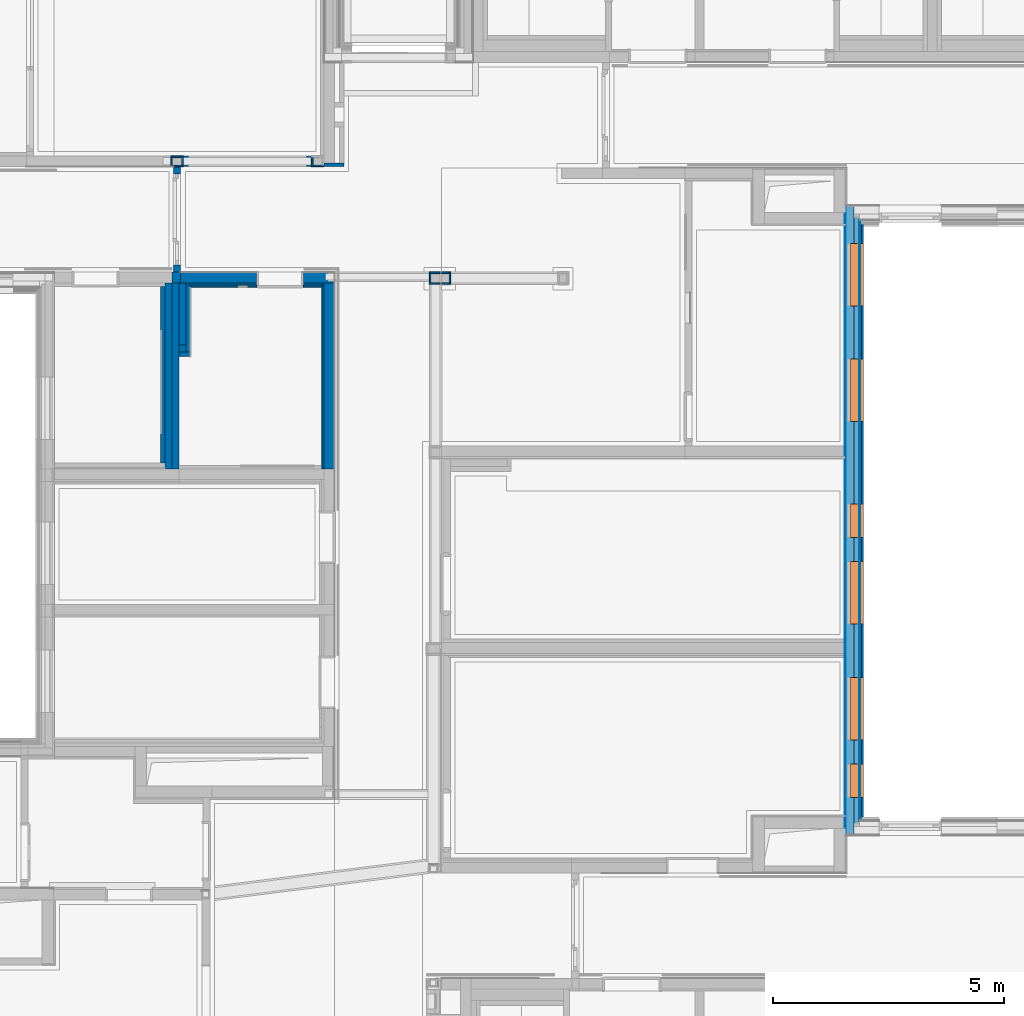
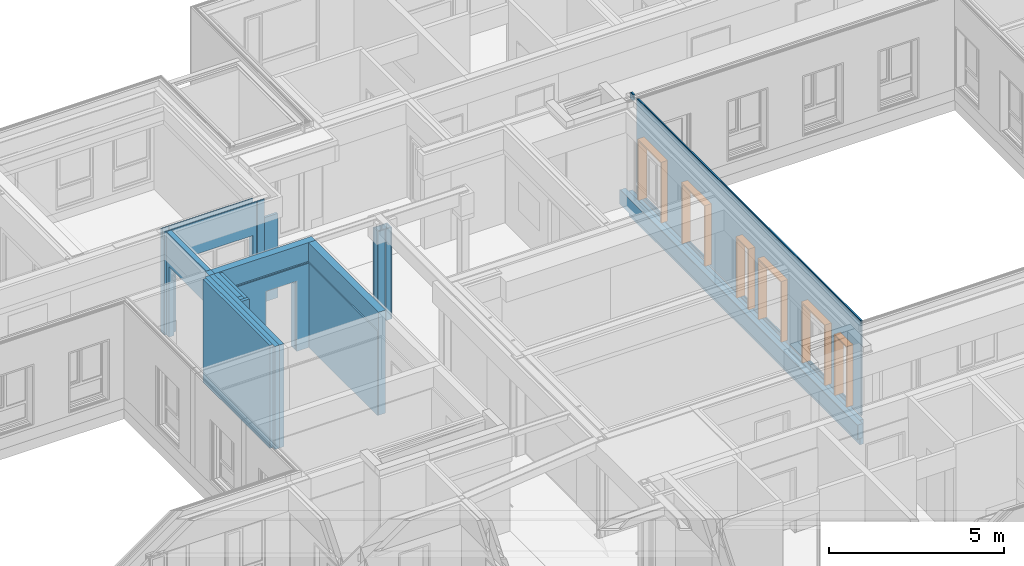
# One storey, part 49 of 207: 34 walls, 6 proxies, 17 openings.
"""IFC4 building model written with IfcOpenShell, lengths in metres."""

from ifc_helpers import new_model, entity, si_unit, converted_unit, derived_unit, frame, frame_2d, origin, origin_with_axes, place, context, subcontext, project, spatial, polyline, rectangle, outline, extrude, clip, bounded_halfspace, faceted_brep, material, element, fill, save


model = new_model("IFC4")

# Units and contexts
model_context = context("Model", 3, precision=1e-05, world=origin())
body_context = subcontext(model_context, "Body", "Model", "MODEL_VIEW")
ifc_project = project(units=[si_unit("LENGTHUNIT", "METRE"), si_unit("AREAUNIT", "SQUARE_METRE"), si_unit("VOLUMEUNIT", "CUBIC_METRE"), si_unit("MASSUNIT", "GRAM", prefix="KILO"), converted_unit("PLANEANGLEUNIT", "DEGREE", entity("IfcPlaneAngleMeasure", 0.0174532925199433), si_unit("PLANEANGLEUNIT", "RADIAN"), dimensions=[0, 0, 0, 0, 0, 0, 0]), derived_unit("THERMALTRANSMITTANCEUNIT", [(si_unit("POWERUNIT", "WATT"), 1), (si_unit("THERMODYNAMICTEMPERATUREUNIT", "KELVIN"), -1), (si_unit("LENGTHUNIT", "METRE"), -2)]), derived_unit("VOLUMETRICFLOWRATEUNIT", [(si_unit("LENGTHUNIT", "METRE"), 3), (converted_unit("TIMEUNIT", "hour", entity("IfcTimeMeasure", 3600.0), si_unit("TIMEUNIT", "SECOND"), dimensions=[0, 0, 1, 0, 0, 0, 0]), -1), (si_unit("LENGTHUNIT", "METRE"), -1)])], contexts=[model_context])

# Site, building, storey
site_placement = place(None, origin())
site = spatial("IfcSite", under=ifc_project, at=site_placement, Name="Psychiatrie Neubau Wunstorf", CompositionType="ELEMENT")
building_placement = place(site_placement, origin())
building = spatial("IfcBuilding", under=site, at=building_placement, Name="Neubau H2 Stationsgebäude", CompositionType="ELEMENT")
storey_placement = place(building_placement, frame((0.0, 0.0, -0.2)))
storey = spatial("IfcBuildingStorey", under=building, at=storey_placement, Name="H2 Ebene 0", CompositionType="ELEMENT", Elevation=-0.2)

# Wall, openings
ifc_material_1 = material(Name="WA-TL")
wall_1_placement = place(storey_placement, frame((79.475, 22.0, 0.5), z_axis=(0.0, 0.0, 1.0), x_axis=(0.0, -1.0, 0.0)))
wall_1 = element("IfcWall", 1, at=wall_1_placement, inside=storey, material=ifc_material_1, context=body_context, shape_type="Clipping", body=[
    clip(extrude(rectangle(XDim=12.866, YDim=0.024, at=frame_2d((6.433, 0.012), x_axis=(1.0, 0.0))), frame((0.36, 0.0, 0.0), z_axis=(0.0, 0.0, 1.0), x_axis=(1.0, 0.0, 0.0)), (0.0, 0.0, 1.0), 3.3), bounded_halfspace(frame((0.08, 0.012, 3.1), z_axis=(1.4210854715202e-15, 9.473903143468e-15, 1.0), x_axis=(0.0, -1.0, 1.8947806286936e-14)), True, origin_with_axes(), polyline([(0.0, 0.024), (0.0, 0.0), (0.16, 0.0), (0.16, 0.024), (0.0, 0.024)]))),
    clip(extrude(rectangle(XDim=0.16, YDim=0.024, at=frame_2d((0.08, 0.012), x_axis=(1.0, 0.0))), origin_with_axes(), (0.0, 0.0, 1.0), 3.3), bounded_halfspace(frame((0.08, 0.012, 3.1), z_axis=(1.4210854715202e-15, 9.473903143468e-15, 1.0), x_axis=(0.0, -1.0, 1.8947806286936e-14)), True, origin_with_axes(), polyline([(0.0, 0.024), (0.0, 0.0), (0.16, 0.0), (0.16, 0.024), (0.0, 0.024)]))),
])
opening_1_placement = place(wall_1_placement, frame((12.7649999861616, 0.024, 0.1), z_axis=(0.0, -1.0, 0.0), x_axis=(0.0, 0.0, 1.0)))
element("IfcOpeningElement", 2, at=opening_1_placement, cuts=wall_1, Name="Fensteröffnung", ObjectType="Opening", context=body_context, shape_type="SweptSolid", body=[
    extrude(outline(polyline([(2.12, 0.725), (2.12, 0.0), (0.0, 0.0), (0.0, 0.725), (2.12, 0.725)])), origin_with_axes(), (0.0, 0.0, 1.0), 0.024),
])
opening_2_placement = place(wall_1_placement, frame((11.5165865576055, 0.024, 0.1), z_axis=(0.0, -1.0, 0.0), x_axis=(0.0, 0.0, 1.0)))
element("IfcOpeningElement", 3, at=opening_2_placement, cuts=wall_1, Name="Fensteröffnung", ObjectType="Opening", context=body_context, shape_type="SweptSolid", body=[
    extrude(outline(polyline([(2.12, 1.35), (2.12, 0.0), (0.0, 0.0), (0.0, 1.35), (2.12, 1.35)])), origin_with_axes(), (0.0, 0.0, 1.0), 0.024),
])
opening_3_placement = place(wall_1_placement, frame((9.01664410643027, 0.024, 0.1), z_axis=(0.0, -1.0, 0.0), x_axis=(0.0, 0.0, 1.0)))
element("IfcOpeningElement", 4, at=opening_3_placement, cuts=wall_1, Name="Fensteröffnung", ObjectType="Opening", context=body_context, shape_type="SweptSolid", body=[
    extrude(outline(polyline([(2.12, 1.35), (2.12, 0.0), (0.0, 0.0), (0.0, 1.35), (2.12, 1.35)])), origin_with_axes(), (0.0, 0.0, 1.0), 0.024),
])
opening_4_placement = place(wall_1_placement, frame((4.64200463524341, 0.0240000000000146, 0.1), z_axis=(0.0, -1.0, 0.0), x_axis=(0.0, 0.0, 1.0)))
element("IfcOpeningElement", 5, at=opening_4_placement, cuts=wall_1, Name="Fensteröffnung", ObjectType="Opening", context=body_context, shape_type="SweptSolid", body=[
    extrude(outline(polyline([(2.12, 1.35), (2.12, 0.0), (0.0, 0.0), (0.0, 1.35), (2.12, 1.35)])), origin_with_axes(), (0.0, 0.0, 1.0), 0.024),
])
opening_5_placement = place(wall_1_placement, frame((2.14244477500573, 0.024, 0.1), z_axis=(0.0, -1.0, 0.0), x_axis=(0.0, 0.0, 1.0)))
element("IfcOpeningElement", 6, at=opening_5_placement, cuts=wall_1, Name="Fensteröffnung", ObjectType="Opening", context=body_context, shape_type="SweptSolid", body=[
    extrude(outline(polyline([(2.12, 1.35), (2.12, 0.0), (0.0, 0.0), (0.0, 1.35), (2.12, 1.35)])), origin_with_axes(), (0.0, 0.0, 1.0), 0.024),
])
opening_6_placement = place(wall_1_placement, frame((7.14238722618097, 0.024, 0.1), z_axis=(0.0, -1.0, 0.0), x_axis=(0.0, 0.0, 1.0)))
element("IfcOpeningElement", 7, at=opening_6_placement, cuts=wall_1, Name="Fensteröffnung", ObjectType="Opening", context=body_context, shape_type="SweptSolid", body=[
    extrude(outline(polyline([(2.12, 0.725), (2.12, 0.0), (0.0, 0.0), (0.0, 0.725), (2.12, 0.725)])), origin_with_axes(), (0.0, 0.0, 1.0), 0.024),
])

# Wall, openings, proxies
ifc_material_2 = material(Name="WA-HS")
wall_2_placement = place(storey_placement, frame((79.499, 22.0, 0.5), z_axis=(0.0, 0.0, 1.0), x_axis=(0.0, -1.0, 0.0)))
wall_2 = element("IfcWall", 8, at=wall_2_placement, inside=storey, material=ifc_material_2, context=body_context, shape_type="Clipping", body=[
    clip(extrude(rectangle(XDim=12.8, YDim=0.042, at=frame_2d((6.4, 0.021), x_axis=(1.0, 0.0))), frame((0.384, 0.0, 0.0), z_axis=(0.0, 0.0, 1.0), x_axis=(1.0, 0.0, 0.0)), (0.0, 0.0, 1.0), 3.3), bounded_halfspace(frame((0.08, 0.021, 3.1), z_axis=(1.4210854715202e-15, 5.41365893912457e-15, 1.0), x_axis=(0.0, -1.0, 1.08273178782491e-14)), True, origin_with_axes(), polyline([(0.0, 0.042), (0.0, 0.0), (0.16, 0.0), (0.16, 0.042), (0.0, 0.042)]))),
    clip(extrude(rectangle(XDim=0.16, YDim=0.042, at=frame_2d((0.08, 0.021), x_axis=(1.0, 0.0))), origin_with_axes(), (0.0, 0.0, 1.0), 3.3), bounded_halfspace(frame((0.08, 0.021, 3.1), z_axis=(1.4210854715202e-15, 5.41365893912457e-15, 1.0), x_axis=(0.0, -1.0, 1.08273178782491e-14)), True, origin_with_axes(), polyline([(0.0, 0.042), (0.0, 0.0), (0.16, 0.0), (0.16, 0.042), (0.0, 0.042)]))),
])
opening_7_placement = place(wall_2_placement, frame((12.7649999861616, 0.042, 0.1), z_axis=(0.0, -1.0, 0.0), x_axis=(0.0, 0.0, 1.0)))
opening_7 = element("IfcOpeningElement", 9, at=opening_7_placement, cuts=wall_2, Name="Fensteröffnung", ObjectType="Opening", context=body_context, shape_type="SweptSolid", body=[
    extrude(outline(polyline([(2.12, 0.725), (2.12, 0.0), (0.0, 0.0), (0.0, 0.725), (2.12, 0.725)])), origin_with_axes(), (0.0, 0.0, 1.0), 0.042),
])
opening_8_placement = place(wall_2_placement, frame((11.5165865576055, 0.042, 0.1), z_axis=(0.0, -1.0, 0.0), x_axis=(0.0, 0.0, 1.0)))
opening_8 = element("IfcOpeningElement", 10, at=opening_8_placement, cuts=wall_2, Name="Fensteröffnung", ObjectType="Opening", context=body_context, shape_type="SweptSolid", body=[
    extrude(outline(polyline([(2.12, 1.35), (2.12, 0.0), (0.0, 0.0), (0.0, 1.35), (2.12, 1.35)])), origin_with_axes(), (0.0, 0.0, 1.0), 0.042),
])
opening_9_placement = place(wall_2_placement, frame((9.01664410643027, 0.042, 0.1), z_axis=(0.0, -1.0, 0.0), x_axis=(0.0, 0.0, 1.0)))
opening_9 = element("IfcOpeningElement", 11, at=opening_9_placement, cuts=wall_2, Name="Fensteröffnung", ObjectType="Opening", context=body_context, shape_type="SweptSolid", body=[
    extrude(outline(polyline([(2.12, 1.35), (2.12, 0.0), (0.0, 0.0), (0.0, 1.35), (2.12, 1.35)])), origin_with_axes(), (0.0, 0.0, 1.0), 0.042),
])
opening_10_placement = place(wall_2_placement, frame((4.64200463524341, 0.0420000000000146, 0.1), z_axis=(0.0, -1.0, 0.0), x_axis=(0.0, 0.0, 1.0)))
opening_10 = element("IfcOpeningElement", 12, at=opening_10_placement, cuts=wall_2, Name="Fensteröffnung", ObjectType="Opening", context=body_context, shape_type="SweptSolid", body=[
    extrude(outline(polyline([(2.12, 1.35), (2.12, 0.0), (0.0, 0.0), (0.0, 1.35), (2.12, 1.35)])), origin_with_axes(), (0.0, 0.0, 1.0), 0.042),
])
opening_11_placement = place(wall_2_placement, frame((2.14244477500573, 0.042, 0.1), z_axis=(0.0, -1.0, 0.0), x_axis=(0.0, 0.0, 1.0)))
opening_11 = element("IfcOpeningElement", 13, at=opening_11_placement, cuts=wall_2, Name="Fensteröffnung", ObjectType="Opening", context=body_context, shape_type="SweptSolid", body=[
    extrude(outline(polyline([(2.12, 1.35), (2.12, 0.0), (0.0, 0.0), (0.0, 1.35), (2.12, 1.35)])), origin_with_axes(), (0.0, 0.0, 1.0), 0.042),
])
opening_12_placement = place(wall_2_placement, frame((7.14238722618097, 0.042, 0.1), z_axis=(0.0, -1.0, 0.0), x_axis=(0.0, 0.0, 1.0)))
opening_12 = element("IfcOpeningElement", 14, at=opening_12_placement, cuts=wall_2, Name="Fensteröffnung", ObjectType="Opening", context=body_context, shape_type="SweptSolid", body=[
    extrude(outline(polyline([(2.12, 0.725), (2.12, 0.0), (0.0, 0.0), (0.0, 0.725), (2.12, 0.725)])), origin_with_axes(), (0.0, 0.0, 1.0), 0.042),
])
ifc_material_3 = material(Name="WA-HS")
proxy_1_placement = place(opening_7_placement, frame((0.0, 0.0, 0.275)))
proxy_1 = element("IfcBuildingElementProxy", 15, at=proxy_1_placement, inside=storey, material=ifc_material_3, context=body_context, shape_type="Brep", body=[
    faceted_brep([(0.0, 0.725, 0.0), (0.0, 0.725, -0.275), (2.12, 0.725, -0.275), (2.12, 0.725, 0.0), (2.12, 0.0, -0.275), (2.12, 0.0, 0.0), (0.0, 0.675, -0.275), (0.0, 0.675, 0.0), (0.0, 0.0, 0.0), (0.0, 0.05, 0.0), (2.07, 0.05, 0.0), (2.07, 0.675, 0.0), (2.07, 0.675, -0.275), (2.07, 0.05, -0.275), (0.0, 0.05, -0.275), (0.0, 0.0, -0.275)], [[[0, 1, 2, 3]], [[2, 4, 5, 3]], [[6, 1, 0, 7]], [[7, 0, 3, 5, 8, 9, 10, 11]], [[1, 6, 12, 13, 14, 15, 4, 2]], [[6, 7, 11, 12]], [[15, 8, 5, 4]], [[15, 14, 9, 8]], [[9, 14, 13, 10]], [[10, 13, 12, 11]]], orient=[[False], [False], [False], [False], [False], [False], [False], [False], [False], [False]]),
])
fill(opening_7, proxy_1)
ifc_material_4 = material(Name="WA-HS")
proxy_2_placement = place(opening_8_placement, frame((0.0, 0.0, 0.275)))
proxy_2 = element("IfcBuildingElementProxy", 16, at=proxy_2_placement, inside=storey, material=ifc_material_4, context=body_context, shape_type="Brep", body=[
    faceted_brep([(0.0, 0.0, -0.275), (0.0, 0.0, 0.0), (2.12, 0.0, 0.0), (2.12, 0.0, -0.275), (0.0, 0.05, 0.0), (0.0, 0.05, -0.275), (2.07, 0.05, -0.275), (2.07, 0.05, 0.0), (2.12, 1.35, 0.0), (2.12, 1.35, -0.275), (0.0, 1.35, -0.275), (0.0, 1.3, -0.275), (2.07, 1.3, -0.275), (2.07, 1.3, 0.0), (0.0, 1.3, 0.0), (0.0, 1.35, 0.0)], [[[0, 1, 2, 3]], [[4, 5, 6, 7]], [[0, 5, 4, 1]], [[3, 2, 8, 9]], [[6, 5, 0, 3, 9, 10, 11, 12]], [[13, 14, 15, 8, 2, 1, 4, 7]], [[7, 6, 12, 13]], [[11, 14, 13, 12]], [[15, 10, 9, 8]], [[11, 10, 15, 14]]], orient=[[False], [False], [False], [False], [False], [False], [False], [False], [False], [False]]),
])
fill(opening_8, proxy_2)
ifc_material_5 = material(Name="WA-HS")
proxy_3_placement = place(opening_9_placement, frame((0.0, 0.0, 0.275)))
proxy_3 = element("IfcBuildingElementProxy", 17, at=proxy_3_placement, inside=storey, material=ifc_material_5, context=body_context, shape_type="Brep", body=[
    faceted_brep([(0.0, 1.35, 0.0), (0.0, 1.35, -0.275), (2.12, 1.35, -0.275), (2.12, 1.35, 0.0), (2.12, 0.0, -0.275), (2.12, 0.0, 0.0), (0.0, 1.3, -0.275), (0.0, 1.3, 0.0), (0.0, 0.0, 0.0), (0.0, 0.05, 0.0), (2.07, 0.05, 0.0), (2.07, 1.3, 0.0), (2.07, 1.3, -0.275), (2.07, 0.05, -0.275), (0.0, 0.05, -0.275), (0.0, 0.0, -0.275)], [[[0, 1, 2, 3]], [[2, 4, 5, 3]], [[6, 1, 0, 7]], [[7, 0, 3, 5, 8, 9, 10, 11]], [[1, 6, 12, 13, 14, 15, 4, 2]], [[6, 7, 11, 12]], [[15, 8, 5, 4]], [[15, 14, 9, 8]], [[9, 14, 13, 10]], [[10, 13, 12, 11]]], orient=[[False], [False], [False], [False], [False], [False], [False], [False], [False], [False]]),
])
fill(opening_9, proxy_3)
ifc_material_6 = material(Name="WA-HS")
proxy_4_placement = place(opening_10_placement, frame((0.0, 0.0, 0.275)))
proxy_4 = element("IfcBuildingElementProxy", 18, at=proxy_4_placement, inside=storey, material=ifc_material_6, context=body_context, shape_type="Brep", body=[
    faceted_brep([(0.0, 1.35, 0.0), (0.0, 1.35, -0.275), (2.12, 1.35, -0.275), (2.12, 1.35, 0.0), (2.12, 0.0, -0.275), (2.12, 0.0, 0.0), (0.0, 1.3, -0.275), (0.0, 1.3, 0.0), (0.0, 0.0, 0.0), (0.0, 0.05, 0.0), (2.07, 0.05, 0.0), (2.07, 1.3, 0.0), (2.07, 1.3, -0.275), (2.07, 0.05, -0.275), (0.0, 0.05, -0.275), (0.0, 0.0, -0.275)], [[[0, 1, 2, 3]], [[2, 4, 5, 3]], [[6, 1, 0, 7]], [[7, 0, 3, 5, 8, 9, 10, 11]], [[1, 6, 12, 13, 14, 15, 4, 2]], [[6, 7, 11, 12]], [[15, 8, 5, 4]], [[15, 14, 9, 8]], [[9, 14, 13, 10]], [[10, 13, 12, 11]]], orient=[[False], [False], [False], [False], [False], [False], [False], [False], [False], [False]]),
])
fill(opening_10, proxy_4)
ifc_material_7 = material(Name="WA-HS")
proxy_5_placement = place(opening_11_placement, frame((0.0, 0.0, 0.275)))
proxy_5 = element("IfcBuildingElementProxy", 19, at=proxy_5_placement, inside=storey, material=ifc_material_7, context=body_context, shape_type="Brep", body=[
    faceted_brep([(0.0, 0.0, -0.275), (0.0, 0.0, 0.0), (2.12, 0.0, 0.0), (2.12, 0.0, -0.275), (0.0, 0.05, 0.0), (0.0, 0.05, -0.275), (2.07, 0.05, -0.275), (2.07, 0.05, 0.0), (2.12, 1.35, 0.0), (2.12, 1.35, -0.275), (0.0, 1.35, -0.275), (0.0, 1.3, -0.275), (2.07, 1.3, -0.275), (2.07, 1.3, 0.0), (0.0, 1.3, 0.0), (0.0, 1.35, 0.0)], [[[0, 1, 2, 3]], [[4, 5, 6, 7]], [[0, 5, 4, 1]], [[3, 2, 8, 9]], [[6, 5, 0, 3, 9, 10, 11, 12]], [[13, 14, 15, 8, 2, 1, 4, 7]], [[7, 6, 12, 13]], [[11, 14, 13, 12]], [[15, 10, 9, 8]], [[11, 10, 15, 14]]], orient=[[False], [False], [False], [False], [False], [False], [False], [False], [False], [False]]),
])
fill(opening_11, proxy_5)
ifc_material_8 = material(Name="WA-HS")
proxy_6_placement = place(opening_12_placement, frame((0.0, 0.0, 0.275)))
proxy_6 = element("IfcBuildingElementProxy", 20, at=proxy_6_placement, inside=storey, material=ifc_material_8, context=body_context, shape_type="Brep", body=[
    faceted_brep([(0.0, 0.725, 0.0), (0.0, 0.725, -0.275), (2.12, 0.725, -0.275), (2.12, 0.725, 0.0), (2.12, 0.0, -0.275), (2.12, 0.0, 0.0), (0.0, 0.675, -0.275), (0.0, 0.675, 0.0), (0.0, 0.0, 0.0), (0.0, 0.05, 0.0), (2.07, 0.05, 0.0), (2.07, 0.675, 0.0), (2.07, 0.675, -0.275), (2.07, 0.05, -0.275), (0.0, 0.05, -0.275), (0.0, 0.0, -0.275)], [[[0, 1, 2, 3]], [[2, 4, 5, 3]], [[6, 1, 0, 7]], [[7, 0, 3, 5, 8, 9, 10, 11]], [[1, 6, 12, 13, 14, 15, 4, 2]], [[6, 7, 11, 12]], [[15, 8, 5, 4]], [[15, 14, 9, 8]], [[9, 14, 13, 10]], [[10, 13, 12, 11]]], orient=[[False], [False], [False], [False], [False], [False], [False], [False], [False], [False]]),
])
fill(opening_12, proxy_6)

# Walls
ifc_material_9 = material(Name="WA-LB")
wall_3_placement = place(storey_placement, frame((79.139, 22.036, 0.0), z_axis=(0.0, 0.0, 1.0), x_axis=(0.0, -1.0, 0.0)))
element("IfcWall", 21, at=wall_3_placement, inside=storey, material=ifc_material_9, context=body_context, shape_type="SweptSolid", body=[
    extrude(rectangle(XDim=13.622, YDim=0.021, at=frame_2d((6.811, 0.0105), x_axis=(1.0, 0.0))), origin_with_axes(), (0.0, 0.0, 1.0), 0.5),
])
ifc_material_10 = material(Name="WA-STB")
wall_4_placement = place(storey_placement, frame((79.16, 22.015, 0.0), z_axis=(0.0, 0.0, 1.0), x_axis=(0.0, -1.0, 0.0)))
element("IfcWall", 22, at=wall_4_placement, inside=storey, material=ifc_material_10, context=body_context, shape_type="SweptSolid", body=[
    extrude(rectangle(XDim=13.58, YDim=0.175, at=frame_2d((6.79, 0.0875), x_axis=(1.0, 0.0))), origin_with_axes(), (0.0, 0.0, 1.0), 0.5),
])
ifc_material_11 = material(Name="WA-DE")
wall_5_placement = place(storey_placement, frame((79.335, 21.84, -0.36), z_axis=(0.0, 0.0, 1.0), x_axis=(0.0, -1.0, 0.0)))
element("IfcWall", 23, at=wall_5_placement, inside=storey, material=ifc_material_11, context=body_context, shape_type="SweptSolid", body=[
    extrude(rectangle(XDim=13.23, YDim=0.12, at=frame_2d((6.615, 0.06), x_axis=(1.0, 0.0))), origin_with_axes(), (0.0, 0.0, 1.0), 0.86),
])
ifc_material_12 = material(Name="WA-LB")
wall_6_placement = place(storey_placement, frame((79.455, 21.72, 0.0), z_axis=(0.0, 0.0, 1.0), x_axis=(0.0, -1.0, 0.0)))
element("IfcWall", 24, at=wall_6_placement, inside=storey, material=ifc_material_12, context=body_context, shape_type="SweptSolid", body=[
    extrude(rectangle(XDim=12.99, YDim=0.015, at=frame_2d((6.495, 0.0075), x_axis=(1.0, 0.0))), origin_with_axes(), (0.0, 0.0, 1.0), 0.5),
])
ifc_material_13 = material(Name="WI-LB")
wall_7_placement = place(storey_placement, frame((64.76, 16.3360000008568, 0.0), z_axis=(0.0, 0.0, 1.0), x_axis=(0.0, 1.0, 0.0)))
element("IfcWall", 25, at=wall_7_placement, inside=storey, material=ifc_material_13, context=body_context, shape_type="SweptSolid", body=[
    extrude(rectangle(XDim=4.01799815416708, YDim=0.15, at=frame_2d((2.00899907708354, 0.075), x_axis=(1.0, 0.0))), origin_with_axes(), (0.0, 0.0, 1.0), 3.6),
])
ifc_material_14 = material(Name="WI-LB")
wall_8_placement = place(storey_placement, frame((67.846, 20.3039981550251, 0.0), z_axis=(0.0, 0.0, 1.0), x_axis=(0.0, -1.0, 0.0)))
element("IfcWall", 26, at=wall_8_placement, inside=storey, material=ifc_material_14, context=body_context, shape_type="SweptSolid", body=[
    extrude(rectangle(XDim=3.96799815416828, YDim=0.0395, at=frame_2d((1.98399907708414, 0.01975), x_axis=(1.0, 0.0))), origin_with_axes(), (0.0, 0.0, 1.0), 2.95),
])
ifc_material_15 = material(Name="WI-HW 60")
wall_9_placement = place(storey_placement, frame((67.8855, 20.3539981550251, 0.0), z_axis=(0.0, 0.0, 1.0), x_axis=(0.0, -1.0, 0.0)))
element("IfcWall", 27, at=wall_9_placement, inside=storey, material=ifc_material_15, context=body_context, shape_type="SweptSolid", body=[
    extrude(rectangle(XDim=4.01799815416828, YDim=0.232, at=frame_2d((2.00899907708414, 0.116), x_axis=(1.0, 0.0))), origin_with_axes(), (0.0, 0.0, 1.0), 3.6),
])
ifc_material_16 = material(Name="WI-LW 60")
wall_10_placement = place(storey_placement, frame((64.58, 22.8640003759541, 0.0)))
element("IfcWall", 28, at=wall_10_placement, inside=storey, material=ifc_material_16, context=body_context, shape_type="SweptSolid", body=[
    extrude(rectangle(XDim=0.272, YDim=0.036, at=frame_2d((0.136, 0.018), x_axis=(1.0, 0.0))), origin_with_axes(), (0.0, 0.0, 1.0), 3.6),
])
ifc_material_17 = material(Name="WI-LW 60")
wall_11_placement = place(storey_placement, frame((64.852, 22.9000003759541, 0.0), z_axis=(0.0, 0.0, 1.0), x_axis=(0.0, 1.0, 0.0)))
element("IfcWall", 29, at=wall_11_placement, inside=storey, material=ifc_material_17, context=body_context, shape_type="Clipping", body=[
    clip(extrude(rectangle(XDim=0.196, YDim=0.036, at=frame_2d((0.098, 0.018), x_axis=(1.0, 0.0))), origin_with_axes(), (0.0, 0.0, 1.0), 3.6), bounded_halfspace(frame((0.0799997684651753, 0.018, 3.3), z_axis=(0.0, 0.0, -1.0), x_axis=(0.0, -1.0, 0.0)), True, origin_with_axes(), polyline([(0.0, 0.036), (0.0, 0.0), (0.159999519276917, 0.0), (0.159999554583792, 0.036), (0.0, 0.036)]))),
])
ifc_material_18 = material(Name="WI-LW 60")
wall_12_placement = place(storey_placement, frame((64.816, 23.0960003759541, 0.0), z_axis=(0.0, 0.0, 1.0), x_axis=(-1.0, 0.0, 0.0)))
element("IfcWall", 30, at=wall_12_placement, inside=storey, material=ifc_material_18, context=body_context, shape_type="SweptSolid", body=[
    extrude(rectangle(XDim=0.2, YDim=0.036, at=frame_2d((0.1, 0.018), x_axis=(1.0, 0.0))), origin_with_axes(), (0.0, 0.0, 1.0), 3.6),
])
ifc_material_19 = material(Name="WI-LW 60")
wall_13_placement = place(storey_placement, frame((64.58, 23.0960003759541, 0.0), z_axis=(0.0, 0.0, 1.0), x_axis=(0.0, -1.0, 0.0)))
element("IfcWall", 31, at=wall_13_placement, inside=storey, material=ifc_material_19, context=body_context, shape_type="Clipping", body=[
    clip(extrude(rectangle(XDim=0.196, YDim=0.036, at=frame_2d((0.098, 0.018), x_axis=(1.0, 0.0))), origin_with_axes(), (0.0, 0.0, 1.0), 3.6), bounded_halfspace(frame((0.116000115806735, 0.018, 3.3), z_axis=(0.0, 0.0, -1.0), x_axis=(-9.80746537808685e-07, -0.999999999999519, 0.0)), True, origin_with_axes(), polyline([(0.0360002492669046, 0.036), (0.0360002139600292, 0.0), (0.196000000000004, 0.0), (0.196000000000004, 0.036), (0.0360002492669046, 0.036)]))),
])
ifc_material_20 = material(Name="WI-HW 60")
wall_14_placement = place(storey_placement, frame((67.617, 23.059997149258, 0.0), z_axis=(0.0, 0.0, 1.0), x_axis=(0.0, -1.0, 0.0)))
element("IfcWall", 32, at=wall_14_placement, inside=storey, material=ifc_material_20, context=body_context, shape_type="Clipping", body=[
    clip(extrude(rectangle(XDim=0.196, YDim=0.036, at=frame_2d((0.098, 0.018), x_axis=(1.0, 0.0))), origin_with_axes(), (0.0, 0.0, 1.0), 3.6), bounded_halfspace(frame((0.0799999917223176, 0.018, 3.3), z_axis=(0.0, 0.0, -1.0), x_axis=(0.0, -1.0, 0.0)), True, origin_with_axes(), polyline([(0.0, 0.036), (0.0, 0.0), (0.159999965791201, 0.0), (0.160000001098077, 0.036), (0.0, 0.036)]))),
])
ifc_material_21 = material(Name="WI-HW 60")
wall_15_placement = place(storey_placement, frame((67.653, 22.863997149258, 0.0)))
element("IfcWall", 33, at=wall_15_placement, inside=storey, material=ifc_material_21, context=body_context, shape_type="SweptSolid", body=[
    extrude(rectangle(XDim=0.236, YDim=0.036, at=frame_2d((0.118, 0.018), x_axis=(1.0, 0.0))), origin_with_axes(), (0.0, 0.0, 1.0), 3.6),
])
ifc_material_22 = material(Name="WI-LB")
wall_16_placement = place(storey_placement, frame((67.889, 22.8639999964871, 0.0)))
element("IfcWall", 34, at=wall_16_placement, inside=storey, material=ifc_material_22, context=body_context, shape_type="SweptSolid", body=[
    extrude(rectangle(XDim=0.432, YDim=0.075, at=frame_2d((0.216, 0.0375), x_axis=(1.0, 0.0))), origin_with_axes(), (0.0, 0.0, 1.0), 2.95),
])
ifc_material_23 = material(Name="WI-IW")
wall_17_placement = place(storey_placement, frame((64.36, 20.2789981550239, 0.0), z_axis=(0.0, 0.0, 1.0), x_axis=(0.0, -1.0, 0.0)))
element("IfcWall", 35, at=wall_17_placement, inside=storey, material=ifc_material_23, context=body_context, shape_type="SweptSolid", body=[
    extrude(rectangle(XDim=3.81799815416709, YDim=0.1, at=frame_2d((1.90899907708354, 0.05), x_axis=(1.0, 0.0))), origin_with_axes(), (0.0, 0.0, 1.0), 3.6),
])
ifc_material_24 = material(Name="Installationsraum")
wall_18_placement = place(storey_placement, frame((64.46, 20.3539981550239, 0.0), z_axis=(0.0, 0.0, 1.0), x_axis=(0.0, -1.0, 0.0)))
element("IfcWall", 36, at=wall_18_placement, inside=storey, material=ifc_material_24, context=body_context, shape_type="SweptSolid", body=[
    extrude(rectangle(XDim=4.01799815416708, YDim=0.15, at=frame_2d((2.00899907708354, 0.075), x_axis=(1.0, 0.0))), origin_with_axes(), (0.0, 0.0, 1.0), 3.6),
])

# Wall, opening
ifc_material_25 = material(Name="WI-LW 60")
wall_19_placement = place(storey_placement, frame((64.6385, 22.8639999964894, 0.0), z_axis=(0.0, 0.0, 1.0), x_axis=(0.0, -1.0, 0.0)))
wall_19 = element("IfcWall", 37, at=wall_19_placement, inside=storey, material=ifc_material_25, context=body_context, shape_type="SweptSolid", body=[
    extrude(rectangle(XDim=2.27800196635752, YDim=0.155, at=frame_2d((1.13900098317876, 0.0775), x_axis=(1.0, 0.0))), origin_with_axes(), (0.0, 0.0, 1.0), 3.6),
])
opening_13_placement = place(wall_19_placement, frame((0.155000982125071, 0.0, 0.0), z_axis=(0.0, 1.0, 0.0), x_axis=(0.0, 0.0, 1.0)))
element("IfcOpeningElement", 38, at=opening_13_placement, cuts=wall_19, Name="Türöffnung", ObjectType="Opening", context=body_context, shape_type="SweptSolid", body=[
    extrude(outline(polyline([(2.46, 1.968), (2.46, 0.0), (0.0, 0.0), (0.0, 1.968), (2.46, 1.968)])), origin_with_axes(), (0.0, 0.0, 1.0), 0.155),
])

# Walls
ifc_material_26 = material(Name="BS Beplankung")
wall_20_placement = place(storey_placement, frame((70.400000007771, 20.5919973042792, 0.0), z_axis=(0.0, 0.0, 1.0), x_axis=(-1.0, 0.0, 0.0)))
element("IfcWall", 39, at=wall_20_placement, inside=storey, material=ifc_material_26, context=body_context, shape_type="SweptSolid", body=[
    extrude(rectangle(XDim=0.235992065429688, YDim=0.036, at=frame_2d((0.117996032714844, 0.018), x_axis=(1.0, 0.0))), origin_with_axes(), (0.0, 0.0, 1.0), 3.2),
])
ifc_material_27 = material(Name="BS Beplankung")
wall_21_placement = place(storey_placement, frame((70.430000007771, 20.319998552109, 0.0)))
element("IfcWall", 40, at=wall_21_placement, inside=storey, material=ifc_material_27, context=body_context, shape_type="SweptSolid", body=[
    extrude(rectangle(XDim=0.16, YDim=0.0359970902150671, at=frame_2d((0.08, 0.0179985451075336), x_axis=(1.0, 0.0))), origin_with_axes(), (0.0, 0.0, 1.0), 3.2),
])
ifc_material_28 = material(Name="BS Beplankung")
wall_22_placement = place(storey_placement, frame((70.1640079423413, 20.5559973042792, 0.0), z_axis=(0.0, 0.0, 1.0), x_axis=(0.0, -1.0, 0.0)))
element("IfcWall", 41, at=wall_22_placement, inside=storey, material=ifc_material_28, context=body_context, shape_type="SweptSolid", body=[
    extrude(rectangle(XDim=0.2, YDim=0.0359981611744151, at=frame_2d((0.1, 0.0179990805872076), x_axis=(1.0, 0.0))), origin_with_axes(), (0.0, 0.0, 1.0), 3.2),
])
ifc_material_29 = material(Name="BS Beplankung")
wall_23_placement = place(storey_placement, frame((70.626000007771, 20.319998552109, 0.0), z_axis=(0.0, 0.0, 1.0), x_axis=(0.0, 1.0, 0.0)))
element("IfcWall", 42, at=wall_23_placement, inside=storey, material=ifc_material_29, context=body_context, shape_type="SweptSolid", body=[
    extrude(rectangle(XDim=0.272, YDim=0.036, at=frame_2d((0.136, 0.018), x_axis=(1.0, 0.0))), origin_with_axes(), (0.0, 0.0, 1.0), 3.2),
])
ifc_material_30 = material(Name="BS Beplankung")
wall_24_placement = place(storey_placement, frame((70.1640079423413, 20.3199973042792, 0.0)))
element("IfcWall", 43, at=wall_24_placement, inside=storey, material=ifc_material_30, context=body_context, shape_type="SweptSolid", body=[
    extrude(rectangle(XDim=0.235992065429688, YDim=0.036, at=frame_2d((0.117996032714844, 0.018), x_axis=(1.0, 0.0))), origin_with_axes(), (0.0, 0.0, 1.0), 3.2),
])
ifc_material_31 = material(Name="BS Beplankung")
wall_25_placement = place(storey_placement, frame((70.590000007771, 20.591998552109, 0.0), z_axis=(0.0, 0.0, 1.0), x_axis=(-1.0, 0.0, 0.0)))
element("IfcWall", 44, at=wall_25_placement, inside=storey, material=ifc_material_31, context=body_context, shape_type="SweptSolid", body=[
    extrude(rectangle(XDim=0.16, YDim=0.036, at=frame_2d((0.08, 0.018), x_axis=(1.0, 0.0))), origin_with_axes(), (0.0, 0.0, 1.0), 3.2),
])

# Wall, opening
ifc_material_32 = material(Name="WI-LW 60")
wall_26_placement = place(storey_placement, frame((67.617, 23.0959999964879, 0.0), z_axis=(0.0, 0.0, 1.0), x_axis=(-1.0, 0.0, 0.0)))
wall_26 = element("IfcWall", 45, at=wall_26_placement, inside=storey, material=ifc_material_32, context=body_context, shape_type="Clipping", body=[
    clip(extrude(rectangle(XDim=2.765, YDim=0.232, at=frame_2d((1.3825, 0.116), x_axis=(1.0, 0.0))), origin_with_axes(), (0.0, 0.0, 1.0), 3.6), bounded_halfspace(frame((1.3825, 0.116001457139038, 3.3), z_axis=(0.0, 0.0, -1.0), x_axis=(0.0, -1.0, 0.0)), True, origin_with_axes(), polyline([(0.0, 0.196002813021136), (0.0, 0.0360028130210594), (2.765, 0.0360001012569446), (2.765, 0.196000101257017), (0.0, 0.196002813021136)]))),
])
opening_14_placement = place(wall_26_placement, frame((2.6575, 0.232, 0.0), z_axis=(0.0, -1.0, 0.0), x_axis=(0.0, 0.0, 1.0)))
element("IfcOpeningElement", 46, at=opening_14_placement, cuts=wall_26, Name="Türöffnung", ObjectType="Opening", context=body_context, shape_type="SweptSolid", body=[
    extrude(outline(polyline([(2.46, 2.55), (2.46, 0.0), (0.0, 0.0), (0.0, 2.55), (2.46, 2.55)])), origin_with_axes(), (0.0, 0.0, 1.0), 0.232),
])

# Walls
ifc_material_33 = material(Name="WI-IW")
wall_27_placement = place(storey_placement, frame((64.76, 18.7609960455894, 0.0)))
element("IfcWall", 47, at=wall_27_placement, inside=storey, material=ifc_material_33, context=body_context, shape_type="SweptSolid", body=[
    extrude(rectangle(XDim=0.25, YDim=0.1, at=frame_2d((0.125, 0.05), x_axis=(1.0, 0.0))), origin_with_axes(), (0.0, 0.0, 1.0), 3.6),
])
ifc_material_34 = material(Name="Installationsraum")
wall_28_placement = place(storey_placement, frame((64.76, 18.8609960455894, 0.0)))
element("IfcWall", 48, at=wall_28_placement, inside=storey, material=ifc_material_34, context=body_context, shape_type="SweptSolid", body=[
    extrude(rectangle(XDim=0.15, YDim=0.15, at=frame_2d((0.075, 0.075), x_axis=(1.0, 0.0))), origin_with_axes(), (0.0, 0.0, 1.0), 3.6),
])
ifc_material_35 = material(Name="WI-IW")
wall_29_placement = place(storey_placement, frame((65.01, 18.8609960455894, 0.0), z_axis=(0.0, 0.0, 1.0), x_axis=(0.0, 1.0, 0.0)))
element("IfcWall", 49, at=wall_29_placement, inside=storey, material=ifc_material_35, context=body_context, shape_type="SweptSolid", body=[
    extrude(rectangle(XDim=1.44300210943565, YDim=0.1, at=frame_2d((0.721501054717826, 0.05), x_axis=(1.0, 0.0))), origin_with_axes(), (0.0, 0.0, 1.0), 3.6),
])
ifc_material_36 = material(Name="Installationsraum")
wall_30_placement = place(storey_placement, frame((64.91, 19.0109960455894, 0.0), z_axis=(0.0, 0.0, 1.0), x_axis=(0.0, 1.0, 0.0)))
element("IfcWall", 50, at=wall_30_placement, inside=storey, material=ifc_material_36, context=body_context, shape_type="SweptSolid", body=[
    extrude(rectangle(XDim=1.34300210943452, YDim=0.15, at=frame_2d((0.671501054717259, 0.075), x_axis=(1.0, 0.0))), origin_with_axes(), (0.0, 0.0, 1.0), 3.6),
])

# Wall, opening
ifc_material_37 = material(Name="WI-LB")
wall_31_placement = place(storey_placement, frame((65.01, 20.2644981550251, 0.0)))
wall_31 = element("IfcWall", 51, at=wall_31_placement, inside=storey, material=ifc_material_37, context=body_context, shape_type="SweptSolid", body=[
    extrude(rectangle(XDim=2.836, YDim=0.0395, at=frame_2d((1.418, 0.01975), x_axis=(1.0, 0.0))), origin_with_axes(), (0.0, 0.0, 1.0), 2.95),
])
opening_15_placement = place(wall_31_placement, frame((2.4355, 0.0395, 0.0), z_axis=(0.0, -1.0, 0.0), x_axis=(0.0, 0.0, 1.0)))
element("IfcOpeningElement", 52, at=opening_15_placement, cuts=wall_31, Name="Türöffnung", ObjectType="Opening", context=body_context, shape_type="SweptSolid", body=[
    extrude(outline(polyline([(2.46, 1.01), (2.46, 0.0), (0.0, 0.0), (0.0, 1.01), (2.46, 1.01)])), origin_with_axes(), (0.0, 0.0, 1.0), 0.0395),
])

ifc_material_38 = material(Name="Installationsraum")
wall_32_placement = place(storey_placement, frame((64.91, 20.3039981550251, 0.0)))
wall_32 = element("IfcWall", 53, at=wall_32_placement, inside=storey, material=ifc_material_38, context=body_context, shape_type="SweptSolid", body=[
    extrude(rectangle(XDim=2.9755, YDim=0.05, at=frame_2d((1.48775, 0.025), x_axis=(1.0, 0.0))), origin_with_axes(), (0.0, 0.0, 1.0), 2.95),
])
opening_16_placement = place(wall_32_placement, frame((2.5355, 0.0499999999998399, 0.0), z_axis=(0.0, -1.0, 0.0), x_axis=(0.0, 0.0, 1.0)))
element("IfcOpeningElement", 54, at=opening_16_placement, cuts=wall_32, Name="Türöffnung", ObjectType="Opening", context=body_context, shape_type="SweptSolid", body=[
    extrude(outline(polyline([(2.46, 1.01), (2.46, 0.0), (0.0, 0.0), (0.0, 1.01), (2.46, 1.01)])), origin_with_axes(), (0.0, 0.0, 1.0), 0.0499999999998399),
])

ifc_material_39 = material(Name="WI-HW 60")
wall_33_placement = place(storey_placement, frame((64.7935, 20.3539981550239, 0.0), z_axis=(0.0, 0.0, 1.0), x_axis=(1.0, 3.52415516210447e-13, 0.0)))
wall_33 = element("IfcWall", 55, at=wall_33_placement, inside=storey, material=ifc_material_39, context=body_context, shape_type="SweptSolid", body=[
    extrude(rectangle(XDim=3.32400000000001, YDim=0.232, at=frame_2d((1.66200000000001, 0.116), x_axis=(1.0, 0.0))), origin_with_axes(), (0.0, 0.0, 1.0), 3.6),
])
opening_17_placement = place(wall_33_placement, frame((2.6520000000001, 0.232000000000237, 0.0), z_axis=(-3.52821220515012e-13, -1.0, 0.0), x_axis=(0.0, 0.0, 1.0)))
element("IfcOpeningElement", 56, at=opening_17_placement, cuts=wall_33, Name="Türöffnung", ObjectType="Opening", context=body_context, shape_type="SweptSolid", body=[
    extrude(outline(polyline([(2.46, 1.01), (2.46, 0.0), (0.0, 0.0), (0.0, 1.01), (2.46, 1.01)])), origin_with_axes(), (0.0, 0.0, 1.0), 0.232000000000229),
])

# Wall
ifc_material_40 = material(Name="WI-HW 60")
wall_34_placement = place(storey_placement, frame((64.61, 20.3539981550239, 0.0), z_axis=(0.0, 0.0, 1.0), x_axis=(0.999999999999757, -6.97837193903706e-07, 0.0)))
element("IfcWall", 57, at=wall_34_placement, inside=storey, material=ifc_material_40, context=body_context, shape_type="SweptSolid", body=[
    extrude(outline(polyline([(0.149999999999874, 2.32728704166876e-07), (0.183499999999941, 1.2805312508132e-07), (0.183499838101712, 0.232000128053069), (-1.6189822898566e-07, 0.231999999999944), (0.0, 1.2805312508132e-07), (0.149999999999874, 2.32728704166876e-07)])), frame((0.0, -1.2805312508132e-07, 0.0), z_axis=(0.0, 0.0, 1.0), x_axis=(1.0, 0.0, 0.0)), (0.0, 0.0, 1.0), 3.6),
])

save(model, "model.ifc")
